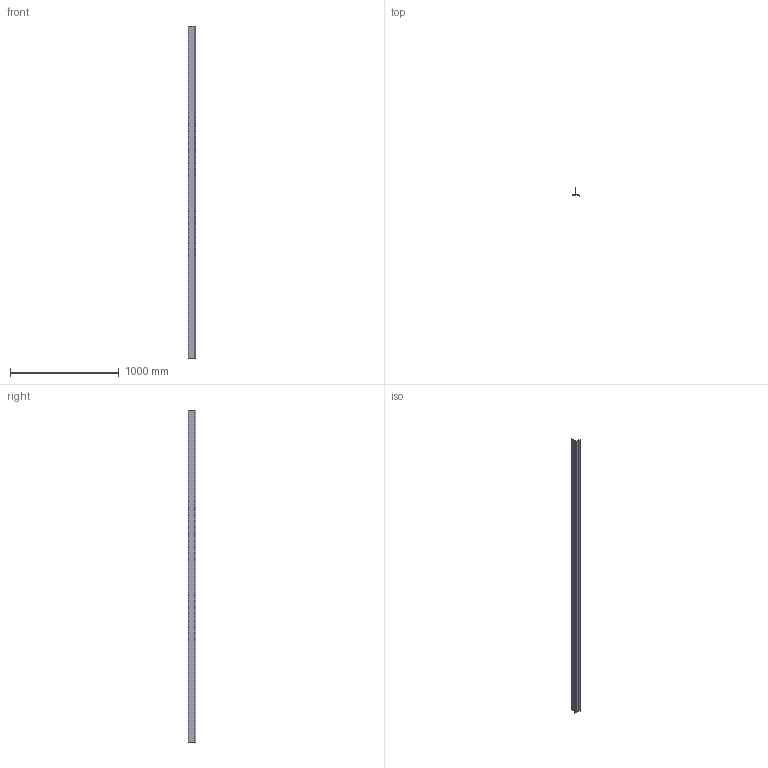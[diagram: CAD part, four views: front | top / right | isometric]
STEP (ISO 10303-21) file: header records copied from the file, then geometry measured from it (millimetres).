
FILE_DESCRIPTION(/* description */ (''),/* implementation_level */ '2;1');
FILE_NAME(/* name */ 'M56I.stp',/* time_stamp */ '2025-02-27T16:30:16-05:00',/* author */ ('samuel.gauthier'),/* organization */ (''),/* preprocessor_version */ 'ST-DEVELOPER v20',/* originating_system */ 'Autodesk Inventor 2025',/* authorisation */ '');
FILE_SCHEMA (('AUTOMOTIVE_DESIGN { 1 0 10303 214 3 1 1 }'));
Length unit declared in the file: inch
Products named in the file (1): M56I
Bounding box: 66.3 x 71.92 x 3048 mm (x, y, z)
Volume: 291561.5 mm3; surface area: 1151167.8 mm2
Topology: 1 solids, 1 shells, 26 faces, 72 edges, 48 vertices
Faces by surface type: plane 16, cylinder 10
Entity records: 881 total; most frequent: CARTESIAN_POINT 147, DIRECTION 146, ORIENTED_EDGE 144, EDGE_CURVE 72, LINE 52, VECTOR 52, VERTEX_POINT 48, AXIS2_PLACEMENT_3D 47
